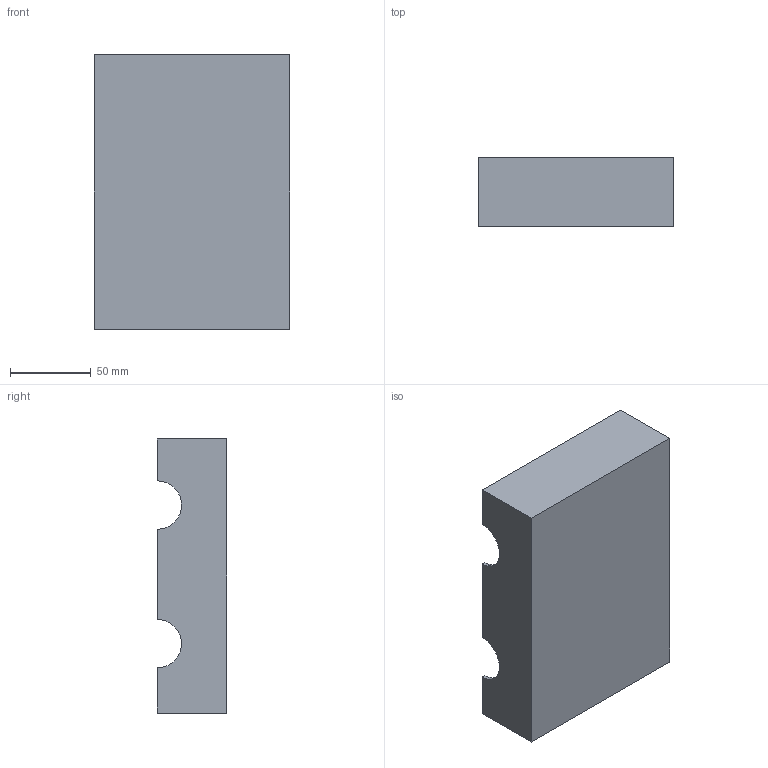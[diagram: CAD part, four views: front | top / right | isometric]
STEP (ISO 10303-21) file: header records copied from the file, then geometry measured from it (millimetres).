
FILE_DESCRIPTION(/* description */ (''),/* implementation_level */ '2;1');
FILE_NAME(/* name */ '/Users/davidflorian/Library/Mobile Documents/com~apple~CloudDocs/Vanderbilt/Papers/OTTO/Supplemental Material/3D-Printable-Components-STEP-Files/Pipette-Tip-Holder.step',/* time_stamp */ '2020-06-30T23:04:55-05:00',/* author */ (''),/* organization */ (''),/* preprocessor_version */ 'ST-DEVELOPER v18.1',/* originating_system */ 'Autodesk Translation Framework v9.3.0.1241',/* authorisation */ '');
FILE_SCHEMA (('AUTOMOTIVE_DESIGN { 1 0 10303 214 3 1 1 }'));
Length unit declared in the file: millimetre
Products named in the file (1): double tips 3
Bounding box: 121.5 x 43 x 170 mm (x, y, z)
Volume: 153637.6 mm3; surface area: 94808.6 mm2
Topology: 1 solids, 1 shells, 36 faces, 92 edges, 60 vertices
Faces by surface type: plane 32, cylinder 4
Entity records: 1109 total; most frequent: CARTESIAN_POINT 189, ORIENTED_EDGE 184, DIRECTION 178, EDGE_CURVE 92, LINE 80, VECTOR 80, VERTEX_POINT 60, AXIS2_PLACEMENT_3D 49
